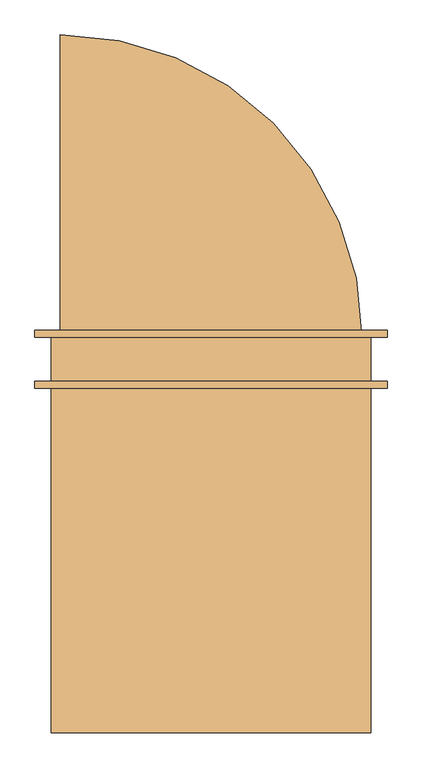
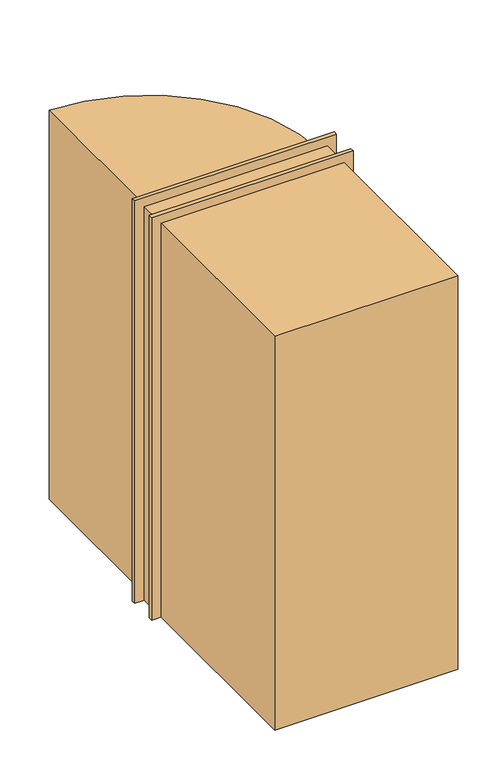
"""IFC4 building model written with IfcOpenShell, lengths in millimetres: door geometry, Дверь_Деревянная_Внутренняя_Однопольная_ГОСТ_475-2016 : 0910 х 2070(h)_Пр_с Порогом."""

from ifc_helpers import new_model, si_unit, point, frame, frame_2d, origin, origin_with_axes, place, context, project, spatial, polyline, circle_curve, trimmed, segment, composite_curve, outline, extrude, faceted_brep, source, transform, mapped, element, save
from ifc_brep_helpers import plane_surface, cylinder_surface, revolved_surface, advanced_brep


def door_22111eda(model_context):
    return source(origin(), model_context, "Body", "SolidModel", [
        extrude(outline(composite_curve([segment(trimmed(circle_curve(frame_2d((-430.0, 59.325)), 860.0), [point((-430.0, 919.325))], [point((430.0, 59.325))], False, "CARTESIAN"), True, "CONTINUOUS"), segment(polyline([(430.0, 59.325), (-430.0, 59.325), (-430.0, 919.325)]), True, "CONTINUOUS")], self_intersect=False)), origin_with_axes(), (0.0, 0.0, 1.0), 2045.0),
        extrude(outline(polyline([(-455.0, -1065.675), (-455.0, -65.675), (455.0, -65.675), (455.0, -1065.675), (-455.0, -1065.675)])), origin_with_axes(), (0.0, 0.0, 1.0), 2070.0),
        advanced_brep(
        [(365.0, 18.325, 914.4), (375.0, 18.325, 914.4), (355.0, 18.325, 914.4), (344.5241324, -30.675, 914.4), (385.4758676, -30.675, 914.4), (365.0, -30.675, 914.4), (340.0, -28.8471319, 914.4), (390.0, -28.8471319, 914.4), (340.0, -25.3834537, 914.4), (390.0, -25.3834537, 914.4), (346.363764, -0.675, 914.4), (383.636236, -0.675, 914.4), (355.0, -0.675, 914.4), (375.0, -0.675, 914.4)],
        [
            (0, 1),
            (1, 2, circle_curve(frame((365.0, 18.325, 914.4), z_axis=(0.0, 1.0, 0.0), x_axis=(1.0, 0.0, 0.0)), 10.0)),
            (2, 0),
            (2, 1, circle_curve(frame((365.0, 18.325, 914.4), z_axis=(0.0, 1.0, 0.0), x_axis=(1.0, 0.0, 0.0)), 10.0)),
            (3, 4, circle_curve(frame((365.0, -30.675, 914.4), z_axis=(0.0, -1.0, 0.0), x_axis=(1.0, 0.0, 0.0)), 20.4758676)),
            (4, 5),
            (5, 3),
            (4, 3, circle_curve(frame((365.0, -30.675, 914.4), z_axis=(0.0, -1.0, 0.0), x_axis=(1.0, 0.0, 0.0)), 20.4758676)),
            (6, 7, circle_curve(frame((365.0, -28.8471319, 914.4), z_axis=(0.0, -1.0, 0.0), x_axis=(1.0, 0.0, 0.0)), 25.0)),
            (7, 4),
            (3, 6),
            (7, 6, circle_curve(frame((365.0, -28.8471319, 914.4), z_axis=(0.0, -1.0, 0.0), x_axis=(1.0, 0.0, 0.0)), 25.0)),
            (8, 9, circle_curve(frame((365.0, -25.3834537, 914.4), z_axis=(0.0, -1.0, 0.0), x_axis=(1.0, 0.0, 0.0)), 25.0)),
            (9, 7),
            (6, 8),
            (9, 8, circle_curve(frame((365.0, -25.3834537, 914.4), z_axis=(0.0, -1.0, 0.0), x_axis=(1.0, 0.0, 0.0)), 25.0)),
            (10, 11, circle_curve(frame((365.0, -0.675, 914.4), z_axis=(0.0, -1.0, 0.0), x_axis=(1.0, 0.0, 0.0)), 18.636236)),
            (11, 9),
            (8, 10),
            (11, 10, circle_curve(frame((365.0, -0.675, 914.4), z_axis=(0.0, -1.0, 0.0), x_axis=(1.0, 0.0, 0.0)), 18.636236)),
            (12, 13, circle_curve(frame((365.0, -0.675, 914.4), z_axis=(0.0, -1.0, 0.0), x_axis=(1.0, 0.0, 0.0)), 10.0)),
            (13, 11),
            (10, 12),
            (13, 12, circle_curve(frame((365.0, -0.675, 914.4), z_axis=(0.0, -1.0, 0.0), x_axis=(1.0, 0.0, 0.0)), 10.0)),
            (1, 13),
            (12, 2),
        ],
        [
            plane_surface(frame((365.0, 18.325, 914.4), z_axis=(0.0, 1.0, 0.0), x_axis=(1.0, 0.0, 0.0))),
            plane_surface(frame((365.0, -30.675, 914.4), z_axis=(0.0, -1.0, 0.0), x_axis=(1.0, 0.0, 0.0))),
            revolved_surface(polyline([(385.4758676, -30.675, 914.4), (390.0, -28.8471319, 914.4)]), (365.0, 18.325, 914.4), (0.0, 1.0, 0.0)),
            cylinder_surface(frame((365.0, 18.325, 914.4), z_axis=(0.0, 1.0, 0.0), x_axis=(1.0, 0.0, 0.0)), 25.0),
            revolved_surface(polyline([(390.0, -25.3834537, 914.4), (383.636236, -0.675, 914.4)]), (365.0, 18.325, 914.4), (0.0, 1.0, 0.0)),
            plane_surface(frame((365.0, -0.675, 914.4), z_axis=(0.0, 1.0, 0.0), x_axis=(1.0, 0.0, 0.0))),
            cylinder_surface(frame((365.0, 18.325, 914.4), z_axis=(0.0, 1.0, 0.0), x_axis=(1.0, 0.0, 0.0)), 10.0),
        ],
        [
            (0, [[1, 2, 3]]),
            (0, [[-3, 4, -1]]),
            (1, [[5, 6, 7]]),
            (1, [[8, -7, -6]]),
            (2, [[9, 10, -5, 11]]),
            (2, [[12, -11, -8, -10]]),
            (3, [[13, 14, -9, 15]]),
            (3, [[16, -15, -12, -14]]),
            (4, [[17, 18, -13, 19]]),
            (4, [[20, -19, -16, -18]]),
            (5, [[21, 22, -17, 23]]),
            (5, [[24, -23, -20, -22]]),
            (6, [[-2, 25, -21, 26]]),
            (6, [[-4, -26, -24, -25]]),
        ],
    ),
        extrude(outline(composite_curve([segment(trimmed(circle_curve(frame_2d((914.4, 365.0)), 30.0), [point((914.4, 395.0))], [point((914.4, 335.0))], False, "CARTESIAN"), True, "CONTINUOUS"), segment(trimmed(circle_curve(frame_2d((914.4, 365.0)), 30.0), [point((914.4, 335.0))], [point((914.4, 395.0))], False, "CARTESIAN"), True, "CONTINUOUS")], self_intersect=False)), frame((0.0, 18.325, 0.0), z_axis=(0.0, 1.0, 0.0), x_axis=(0.0, 0.0, 1.0)), (0.0, 0.0, 1.0), 6.0),
        advanced_brep(
        [(365.0, 65.325, 914.4), (355.0, 65.325, 914.4), (375.0, 65.325, 914.4), (344.5241324, 114.325, 914.4), (365.0, 114.325, 914.4), (385.4758676, 114.325, 914.4), (340.0, 112.4971319, 914.4), (390.0, 112.4971319, 914.4), (340.0, 109.0334537, 914.4), (390.0, 109.0334537, 914.4), (346.363764, 84.325, 914.4), (383.636236, 84.325, 914.4), (355.0, 84.325, 914.4), (375.0, 84.325, 914.4)],
        [
            (0, 1),
            (1, 2, circle_curve(frame((365.0, 65.325, 914.4), z_axis=(0.0, -1.0, 0.0), x_axis=(1.0, 0.0, 0.0)), 10.0)),
            (2, 0),
            (2, 1, circle_curve(frame((365.0, 65.325, 914.4), z_axis=(0.0, -1.0, 0.0), x_axis=(1.0, 0.0, 0.0)), 10.0)),
            (3, 4),
            (4, 5),
            (5, 3, circle_curve(frame((365.0, 114.325, 914.4), z_axis=(0.0, 1.0, 0.0), x_axis=(1.0, 0.0, 0.0)), 20.4758676)),
            (3, 5, circle_curve(frame((365.0, 114.325, 914.4), z_axis=(0.0, 1.0, 0.0), x_axis=(1.0, 0.0, 0.0)), 20.4758676)),
            (6, 3),
            (5, 7),
            (7, 6, circle_curve(frame((365.0, 112.4971319, 914.4), z_axis=(0.0, 1.0, 0.0), x_axis=(1.0, 0.0, 0.0)), 25.0)),
            (6, 7, circle_curve(frame((365.0, 112.4971319, 914.4), z_axis=(0.0, 1.0, 0.0), x_axis=(1.0, 0.0, 0.0)), 25.0)),
            (8, 6),
            (7, 9),
            (9, 8, circle_curve(frame((365.0, 109.0334537, 914.4), z_axis=(0.0, 1.0, 0.0), x_axis=(1.0, 0.0, 0.0)), 25.0)),
            (8, 9, circle_curve(frame((365.0, 109.0334537, 914.4), z_axis=(0.0, 1.0, 0.0), x_axis=(1.0, 0.0, 0.0)), 25.0)),
            (10, 8),
            (9, 11),
            (11, 10, circle_curve(frame((365.0, 84.325, 914.4), z_axis=(0.0, 1.0, 0.0), x_axis=(1.0, 0.0, 0.0)), 18.636236)),
            (10, 11, circle_curve(frame((365.0, 84.325, 914.4), z_axis=(0.0, 1.0, 0.0), x_axis=(1.0, 0.0, 0.0)), 18.636236)),
            (12, 10),
            (11, 13),
            (13, 12, circle_curve(frame((365.0, 84.325, 914.4), z_axis=(0.0, 1.0, 0.0), x_axis=(1.0, 0.0, 0.0)), 10.0)),
            (12, 13, circle_curve(frame((365.0, 84.325, 914.4), z_axis=(0.0, 1.0, 0.0), x_axis=(1.0, 0.0, 0.0)), 10.0)),
            (1, 12),
            (13, 2),
        ],
        [
            plane_surface(frame((365.0, 65.325, 914.4), z_axis=(0.0, -1.0, 0.0), x_axis=(1.0, 0.0, 0.0))),
            plane_surface(frame((365.0, 114.325, 914.4), z_axis=(0.0, 1.0, 0.0), x_axis=(1.0, 0.0, 0.0))),
            revolved_surface(polyline([(385.4758676, 114.325, 914.4), (390.0, 112.4971319, 914.4)]), (365.0, 65.325, 914.4), (0.0, -1.0, 0.0)),
            cylinder_surface(frame((365.0, 65.325, 914.4), z_axis=(0.0, -1.0, 0.0), x_axis=(1.0, 0.0, 0.0)), 25.0),
            revolved_surface(polyline([(390.0, 109.0334537, 914.4), (383.636236, 84.325, 914.4)]), (365.0, 65.325, 914.4), (0.0, -1.0, 0.0)),
            plane_surface(frame((365.0, 84.325, 914.4), z_axis=(0.0, -1.0, 0.0), x_axis=(1.0, 0.0, 0.0))),
            cylinder_surface(frame((365.0, 65.325, 914.4), z_axis=(0.0, -1.0, 0.0), x_axis=(1.0, 0.0, 0.0)), 10.0),
        ],
        [
            (0, [[1, 2, 3]]),
            (0, [[-3, 4, -1]]),
            (1, [[5, 6, 7]]),
            (1, [[-6, -5, 8]]),
            (2, [[9, -7, 10, 11]]),
            (2, [[-10, -8, -9, 12]]),
            (3, [[13, -11, 14, 15]]),
            (3, [[-14, -12, -13, 16]]),
            (4, [[17, -15, 18, 19]]),
            (4, [[-18, -16, -17, 20]]),
            (5, [[21, -19, 22, 23]]),
            (5, [[-22, -20, -21, 24]]),
            (6, [[25, -23, 26, -2]]),
            (6, [[-26, -24, -25, -4]]),
        ],
    ),
        extrude(outline(composite_curve([segment(trimmed(circle_curve(frame_2d((914.4, 365.0)), 30.0), [point((914.4, 395.0))], [point((914.4, 335.0))], False, "CARTESIAN"), True, "CONTINUOUS"), segment(trimmed(circle_curve(frame_2d((914.4, 365.0)), 30.0), [point((914.4, 335.0))], [point((914.4, 395.0))], False, "CARTESIAN"), True, "CONTINUOUS")], self_intersect=False)), frame((0.0, 59.325, 0.0), z_axis=(0.0, 1.0, 0.0), x_axis=(0.0, 0.0, 1.0)), (0.0, 0.0, 1.0), 6.0),
        extrude(outline(polyline([(310.0, 35.9916667), (-310.0, 35.9916667), (-310.0, 47.6583333), (310.0, 47.6583333), (310.0, 35.9916667)])), frame((0.0, 0.0, 230.0), z_axis=(0.0, 0.0, 1.0), x_axis=(1.0, 0.0, 0.0)), (0.0, 0.0, 1.0), 1695.0),
        extrude(outline(polyline([(2045.0, -430.0), (25.0, -430.0), (25.0, 430.0), (2045.0, 430.0), (2045.0, -430.0)]), holes=[polyline([(1925.0, -310.0), (1925.0, 310.0), (230.0, 310.0), (230.0, -310.0), (1925.0, -310.0)])]), frame((0.0, 24.325, 0.0), z_axis=(0.0, 1.0, 0.0), x_axis=(0.0, 0.0, 1.0)), (0.0, 0.0, 1.0), 35.0),
        faceted_brep([(455.0, 59.325, 0.0), (455.0, -65.675, 0.0), (430.0, -65.675, 0.0), (430.0, -10.6, 0.0), (417.3, -10.6, 0.0), (417.3, 24.325, 0.0), (430.0, 24.325, 0.0), (430.0, 59.325, 0.0), (455.0, 59.325, 2070.0), (455.0, -65.675, 2070.0), (-455.0, -65.675, 2070.0), (-455.0, -65.675, 0.0), (-430.0, -65.675, 0.0), (-430.0, -65.675, 2045.0), (430.0, -65.675, 2045.0), (430.0, -10.6, 2045.0), (-430.0, -10.6, 2045.0), (-430.0, -10.6, 0.0), (-417.3, -10.6, 0.0), (-417.3, -10.6, 2032.3), (417.3, -10.6, 2032.3), (417.3, 24.325, 2032.3), (-417.3, 24.325, 2032.3), (-417.3, 24.325, 0.0), (-430.0, 24.325, 0.0), (-430.0, 24.325, 2045.0), (430.0, 24.325, 2045.0), (430.0, 59.325, 2045.0), (-430.0, 59.325, 2045.0), (-430.0, 59.325, 0.0), (-455.0, 59.325, 0.0), (-455.0, 59.325, 2070.0)], [[[0, 1, 2, 3, 4, 5, 6, 7]], [[1, 0, 8, 9]], [[2, 1, 9, 10, 11, 12, 13, 14]], [[3, 2, 14, 15]], [[4, 3, 15, 16, 17, 18, 19, 20]], [[5, 4, 20, 21]], [[6, 5, 21, 22, 23, 24, 25, 26]], [[7, 6, 26, 27]], [[0, 7, 27, 28, 29, 30, 31, 8]], [[9, 8, 31, 10]], [[15, 14, 13, 16]], [[21, 20, 19, 22]], [[27, 26, 25, 28]], [[30, 29, 24, 23, 18, 17, 12, 11]], [[10, 31, 30, 11]], [[16, 13, 12, 17]], [[22, 19, 18, 23]], [[28, 25, 24, 29]]]),
        extrude(outline(polyline([(0.0, 436.35), (0.0, 501.35), (2116.35, 501.35), (2116.35, -501.35), (0.0, -501.35), (0.0, -436.35), (2051.35, -436.35), (2051.35, 436.35), (0.0, 436.35)])), frame((0.0, -85.675, 0.0), z_axis=(0.0, 1.0, 0.0), x_axis=(0.0, 0.0, 1.0)), (0.0, 0.0, 1.0), 20.0),
        extrude(outline(polyline([(0.0, 436.35), (0.0, 501.35), (2116.35, 501.35), (2116.35, -501.35), (0.0, -501.35), (0.0, -436.35), (2051.35, -436.35), (2051.35, 436.35), (0.0, 436.35)])), frame((0.0, 59.325, 0.0), z_axis=(0.0, 1.0, 0.0), x_axis=(0.0, 0.0, 1.0)), (0.0, 0.0, 1.0), 20.0),
        extrude(outline(polyline([(430.0, 59.325), (430.0, 24.325), (-430.0, 24.325), (-430.0, 59.325), (430.0, 59.325)])), origin_with_axes(), (0.0, 0.0, 1.0), 25.0),
    ])


if __name__ == "__main__":
    model = new_model("IFC4")
    model_context = context("Model", 3, world=origin())
    ifc_project = project(units=[si_unit("LENGTHUNIT", "METRE", prefix="MILLI")], contexts=[model_context])
    site = spatial("IfcSite", under=ifc_project)
    building = spatial("IfcBuilding", under=site)
    placement = place(None, origin())
    door_shape = door_22111eda(model_context)
    element("IfcDoor", 1, ObjectType="Дверь_Деревянная_Внутренняя_Однопольная_ГОСТ_475-2016 : 0910 х 2070(h)_Пр_с Порогом", at=placement, inside=building, context=model_context, shape_type="MappedRepresentation", body=[
        mapped(door_shape, transform((0.0, 0.0, 0.0), x_axis=(1.0, 0.0, 0.0), y_axis=(0.0, 1.0, 0.0), z_axis=(0.0, 0.0, 1.0))),
    ])
    save(model, "model.ifc")
